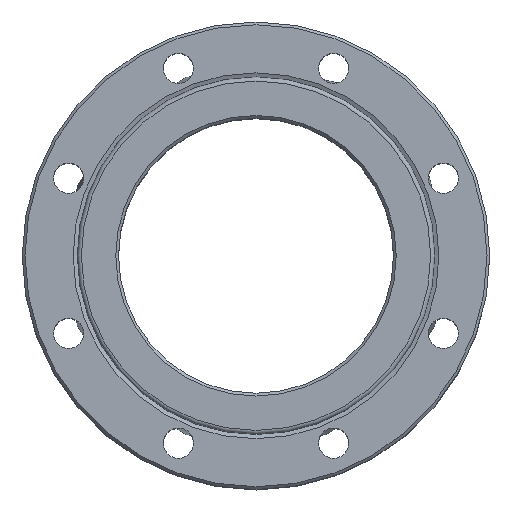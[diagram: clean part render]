
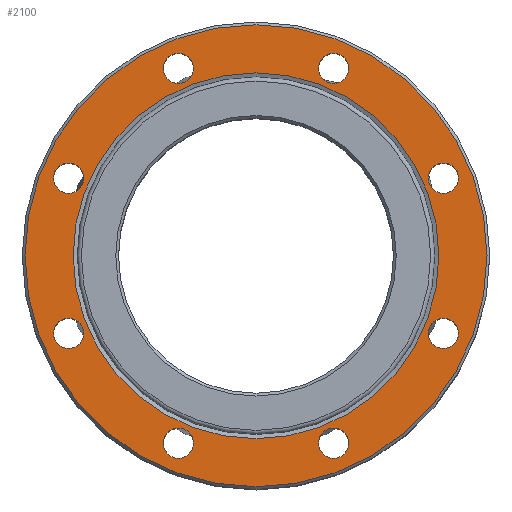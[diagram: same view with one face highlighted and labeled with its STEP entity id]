
A CAD part, top view. The second image highlights one B-rep face of the part: STEP entity #2100.
In plain terms, the highlighted planar face has unit normal (0, 0, 1).
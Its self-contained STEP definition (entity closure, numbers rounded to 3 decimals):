
#116=PLANE('',#2325);
#348=FACE_BOUND('',#646,.T.);
#349=FACE_BOUND('',#647,.T.);
#350=FACE_BOUND('',#648,.T.);
#351=FACE_BOUND('',#649,.T.);
#352=FACE_BOUND('',#650,.T.);
#353=FACE_BOUND('',#651,.T.);
#354=FACE_BOUND('',#652,.T.);
#355=FACE_BOUND('',#653,.T.);
#356=FACE_BOUND('',#654,.T.);
#506=FACE_OUTER_BOUND('',#645,.T.);
#645=EDGE_LOOP('',(#1823));
#646=EDGE_LOOP('',(#1824));
#647=EDGE_LOOP('',(#1825));
#648=EDGE_LOOP('',(#1826));
#649=EDGE_LOOP('',(#1827));
#650=EDGE_LOOP('',(#1828));
#651=EDGE_LOOP('',(#1829));
#652=EDGE_LOOP('',(#1830));
#653=EDGE_LOOP('',(#1831));
#654=EDGE_LOOP('',(#1832));
#794=CIRCLE('',#2324,168.);
#795=CIRCLE('',#2326,11.);
#796=CIRCLE('',#2327,11.);
#797=CIRCLE('',#2328,11.);
#798=CIRCLE('',#2329,11.);
#799=CIRCLE('',#2330,11.);
#800=CIRCLE('',#2331,11.);
#801=CIRCLE('',#2332,11.);
#802=CIRCLE('',#2333,11.);
#803=CIRCLE('',#2334,133.);
#997=VERTEX_POINT('',#4447);
#998=VERTEX_POINT('',#4451);
#999=VERTEX_POINT('',#4453);
#1000=VERTEX_POINT('',#4455);
#1001=VERTEX_POINT('',#4457);
#1002=VERTEX_POINT('',#4459);
#1003=VERTEX_POINT('',#4461);
#1004=VERTEX_POINT('',#4463);
#1005=VERTEX_POINT('',#4465);
#1006=VERTEX_POINT('',#4467);
#1278=EDGE_CURVE('',#997,#997,#794,.T.);
#1279=EDGE_CURVE('',#998,#998,#795,.T.);
#1280=EDGE_CURVE('',#999,#999,#796,.T.);
#1281=EDGE_CURVE('',#1000,#1000,#797,.T.);
#1282=EDGE_CURVE('',#1001,#1001,#798,.T.);
#1283=EDGE_CURVE('',#1002,#1002,#799,.T.);
#1284=EDGE_CURVE('',#1003,#1003,#800,.T.);
#1285=EDGE_CURVE('',#1004,#1004,#801,.T.);
#1286=EDGE_CURVE('',#1005,#1005,#802,.T.);
#1287=EDGE_CURVE('',#1006,#1006,#803,.T.);
#1823=ORIENTED_EDGE('',*,*,#1278,.F.);
#1824=ORIENTED_EDGE('',*,*,#1279,.F.);
#1825=ORIENTED_EDGE('',*,*,#1280,.F.);
#1826=ORIENTED_EDGE('',*,*,#1281,.F.);
#1827=ORIENTED_EDGE('',*,*,#1282,.F.);
#1828=ORIENTED_EDGE('',*,*,#1283,.F.);
#1829=ORIENTED_EDGE('',*,*,#1284,.F.);
#1830=ORIENTED_EDGE('',*,*,#1285,.F.);
#1831=ORIENTED_EDGE('',*,*,#1286,.F.);
#1832=ORIENTED_EDGE('',*,*,#1287,.T.);
#2100=ADVANCED_FACE('',(#506,#348,#349,#350,#351,#352,#353,#354,#355,#356),
#116,.F.);
#2324=AXIS2_PLACEMENT_3D('',#4449,#2819,#2820);
#2325=AXIS2_PLACEMENT_3D('',#4450,#2821,#2822);
#2326=AXIS2_PLACEMENT_3D('',#4452,#2823,#2824);
#2327=AXIS2_PLACEMENT_3D('',#4454,#2825,#2826);
#2328=AXIS2_PLACEMENT_3D('',#4456,#2827,#2828);
#2329=AXIS2_PLACEMENT_3D('',#4458,#2829,#2830);
#2330=AXIS2_PLACEMENT_3D('',#4460,#2831,#2832);
#2331=AXIS2_PLACEMENT_3D('',#4462,#2833,#2834);
#2332=AXIS2_PLACEMENT_3D('',#4464,#2835,#2836);
#2333=AXIS2_PLACEMENT_3D('',#4466,#2837,#2838);
#2334=AXIS2_PLACEMENT_3D('',#4468,#2839,#2840);
#2819=DIRECTION('center_axis',(0.,0.,-1.));
#2820=DIRECTION('ref_axis',(1.,0.,0.));
#2821=DIRECTION('center_axis',(0.,0.,-1.));
#2822=DIRECTION('ref_axis',(-1.,0.,0.));
#2823=DIRECTION('center_axis',(0.,0.,1.));
#2824=DIRECTION('ref_axis',(1.,0.,0.));
#2825=DIRECTION('center_axis',(0.,0.,1.));
#2826=DIRECTION('ref_axis',(1.,0.,0.));
#2827=DIRECTION('center_axis',(0.,0.,1.));
#2828=DIRECTION('ref_axis',(1.,0.,0.));
#2829=DIRECTION('center_axis',(0.,0.,1.));
#2830=DIRECTION('ref_axis',(1.,0.,0.));
#2831=DIRECTION('center_axis',(0.,0.,1.));
#2832=DIRECTION('ref_axis',(1.,0.,0.));
#2833=DIRECTION('center_axis',(0.,0.,1.));
#2834=DIRECTION('ref_axis',(1.,0.,0.));
#2835=DIRECTION('center_axis',(0.,0.,1.));
#2836=DIRECTION('ref_axis',(1.,0.,0.));
#2837=DIRECTION('center_axis',(0.,0.,1.));
#2838=DIRECTION('ref_axis',(1.,0.,0.));
#2839=DIRECTION('center_axis',(0.,0.,-1.));
#2840=DIRECTION('ref_axis',(0.,1.,0.));
#4447=CARTESIAN_POINT('',(-168.,0.,101.));
#4449=CARTESIAN_POINT('Origin',(0.,0.,101.));
#4450=CARTESIAN_POINT('Origin',(0.,0.,101.));
#4451=CARTESIAN_POINT('',(-147.272,56.446,101.));
#4452=CARTESIAN_POINT('Origin',(-136.272,56.446,101.));
#4453=CARTESIAN_POINT('',(-147.272,-56.446,101.));
#4454=CARTESIAN_POINT('Origin',(-136.272,-56.446,101.));
#4455=CARTESIAN_POINT('',(-67.446,-136.272,101.));
#4456=CARTESIAN_POINT('Origin',(-56.446,-136.272,101.));
#4457=CARTESIAN_POINT('',(45.446,-136.272,101.));
#4458=CARTESIAN_POINT('Origin',(56.446,-136.272,101.));
#4459=CARTESIAN_POINT('',(125.272,-56.446,101.));
#4460=CARTESIAN_POINT('Origin',(136.272,-56.446,101.));
#4461=CARTESIAN_POINT('',(125.272,56.446,101.));
#4462=CARTESIAN_POINT('Origin',(136.272,56.446,101.));
#4463=CARTESIAN_POINT('',(45.446,136.272,101.));
#4464=CARTESIAN_POINT('Origin',(56.446,136.272,101.));
#4465=CARTESIAN_POINT('',(-67.446,136.272,101.));
#4466=CARTESIAN_POINT('Origin',(-56.446,136.272,101.));
#4467=CARTESIAN_POINT('',(0.,-133.,101.));
#4468=CARTESIAN_POINT('Origin',(0.,0.,101.));
